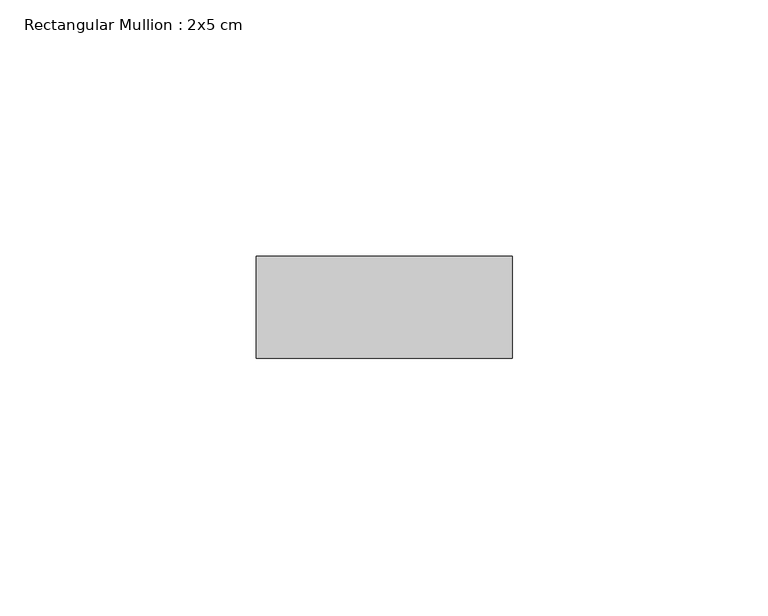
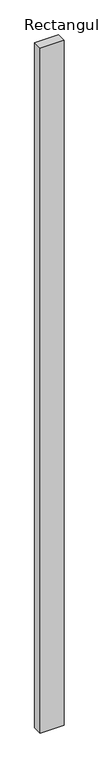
"""IFC4 building model written with IfcOpenShell, lengths in millimetres: member geometry, Rectangular Mullion : 2x5 cm."""

from ifc_helpers import new_model, si_unit, frame, origin, place, context, project, spatial, polyline, outline, extrude, source, transform, mapped, element, save


def rectangular_mullion_2x5_cm_54b2d60b(model_context):
    return source(origin(), model_context, "Body", "SweptSolid", [
        extrude(outline(polyline([(50.0, 20.0), (50.0, 0.0), (0.0, 0.0), (0.0, 20.0), (50.0, 20.0)])), frame((0.0, 0.0, -1512.2876544), z_axis=(0.0, 0.0, 1.0), x_axis=(1.0, 0.0, 0.0)), (0.0, 0.0, 1.0), 1512.2876544),
    ])


if __name__ == "__main__":
    model = new_model("IFC4")
    model_context = context("Model", 3, world=origin())
    ifc_project = project(units=[si_unit("LENGTHUNIT", "METRE", prefix="MILLI")], contexts=[model_context])
    site = spatial("IfcSite", under=ifc_project)
    building = spatial("IfcBuilding", under=site)
    placement = place(None, origin())
    rectangular_mullion_2x5_cm_shape = rectangular_mullion_2x5_cm_54b2d60b(model_context)
    element("IfcMember", 1, ObjectType="Rectangular Mullion : 2x5 cm", at=placement, inside=building, context=model_context, shape_type="MappedRepresentation", body=[
        mapped(rectangular_mullion_2x5_cm_shape, transform((0.0, 0.0, 0.0), x_axis=(1.0, 0.0, 0.0), y_axis=(0.0, 1.0, 0.0), z_axis=(0.0, 0.0, 1.0))),
    ])
    save(model, "model.ifc")
